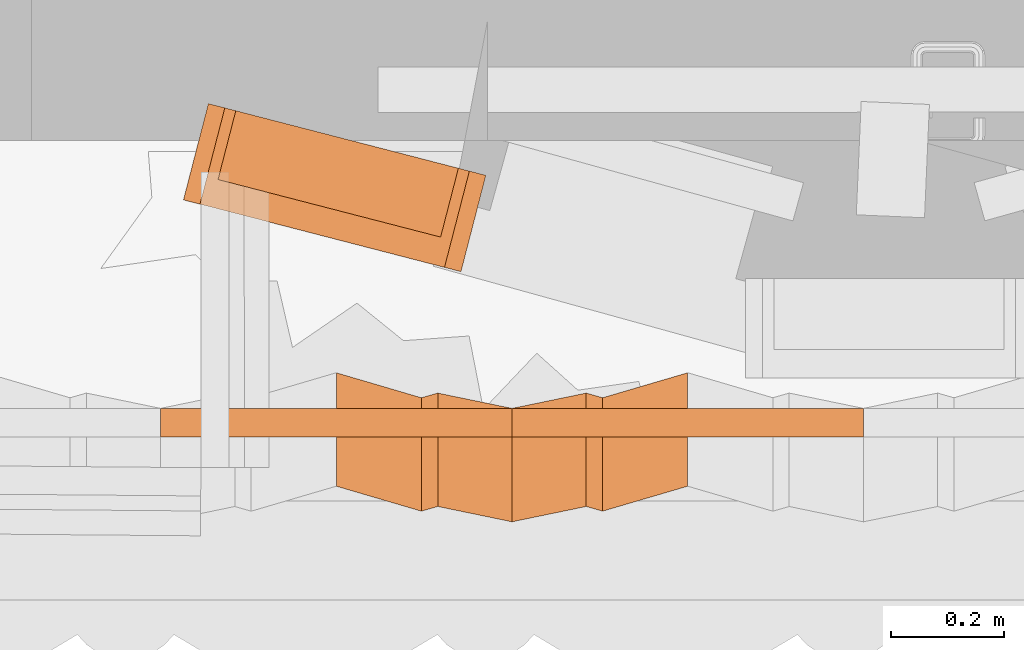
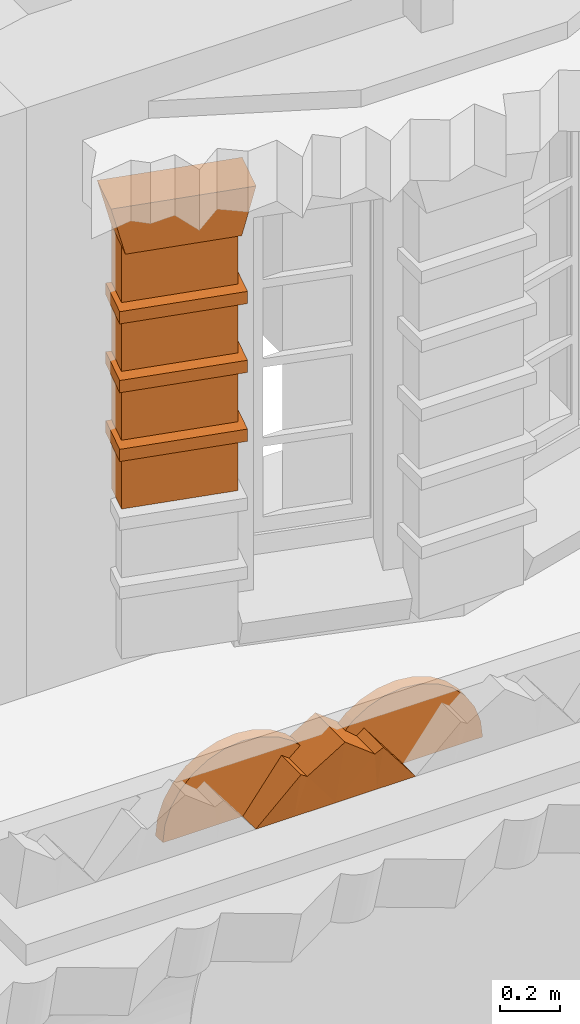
# One storey, part 140 of 158: 11 proxies.
"""IFC2X3 building model written with IfcOpenShell, lengths in metres."""

from ifc_helpers import new_model, entity, si_unit, converted_unit, derived_unit, money_unit, direction, frame, origin_with_axes, place, context, subcontext, project, spatial, faceted_brep, source, transform, mapped, material, type_object, element, save


model = new_model("IFC2X3")

# Units and contexts
model_context = context("Model", 3, precision=1e-05, world=origin_with_axes(), true_north=direction((0.0, 1.0)))
body_context = subcontext(model_context, "Body", "Model", "MODEL_VIEW")
ifc_project = project(units=[si_unit("LENGTHUNIT", "METRE"), si_unit("AREAUNIT", "SQUARE_METRE"), si_unit("VOLUMEUNIT", "CUBIC_METRE"), converted_unit("PLANEANGLEUNIT", "DEGREE", entity("IfcPlaneAngleMeasure", 0.0174532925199), si_unit("PLANEANGLEUNIT", "RADIAN"), dimensions=[0, 0, 0, 0, 0, 0, 0]), money_unit("EUR"), converted_unit("TIMEUNIT", "Year", entity("IfcTimeMeasure", 31556926.0), si_unit("TIMEUNIT", "SECOND"), dimensions=[0, 0, 1, 0, 0, 0, 0]), si_unit("MASSUNIT", "GRAM", prefix="KILO"), si_unit("THERMODYNAMICTEMPERATUREUNIT", "DEGREE_CELSIUS"), si_unit("LUMINOUSINTENSITYUNIT", "LUMEN"), si_unit("ENERGYUNIT", "JOULE", prefix="MEGA"), derived_unit("THERMALCONDUCTANCEUNIT", [(si_unit("POWERUNIT", "WATT"), 1), (si_unit("LENGTHUNIT", "METRE"), -1), (si_unit("THERMODYNAMICTEMPERATUREUNIT", "KELVIN"), -1)]), derived_unit("SPECIFICHEATCAPACITYUNIT", [(si_unit("ENERGYUNIT", "JOULE"), 1), (si_unit("MASSUNIT", "GRAM", prefix="KILO"), -1), (si_unit("THERMODYNAMICTEMPERATUREUNIT", "KELVIN"), -1)]), derived_unit("MASSDENSITYUNIT", [(si_unit("MASSUNIT", "GRAM", prefix="KILO"), 1), (si_unit("VOLUMEUNIT", "CUBIC_METRE"), -1)])], contexts=[model_context])

# Site, building, storey
site_placement = place(None, origin_with_axes())
site = spatial("IfcSite", under=ifc_project, at=site_placement, Name="Gelände", CompositionType="ELEMENT")
building_placement = place(site_placement, origin_with_axes())
building = spatial("IfcBuilding", under=site, at=building_placement, Name="Gebäude", CompositionType="ELEMENT")
storey_placement = place(building_placement, origin_with_axes())
storey = spatial("IfcBuildingStorey", under=building, at=storey_placement, Name="ERDGESCHOSS", CompositionType="ELEMENT", Elevation=0.0)

# Proxies
ifc_material = material(Name="01_ALLGEMEIN - BAUTEIL")
building_element_proxy_type = type_object("IfcBuildingElementProxyType", Name="01_ALLGEMEIN - BAUTEIL", PredefinedType="NOTDEFINED")
shared_shape_1 = source(origin_with_axes(), body_context, "Body", "Brep", [
    faceted_brep([(-0.405369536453, -0.125335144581, 0.0), (-0.405369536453, -0.125335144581, -0.232016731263), (0.0, -0.125335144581, -0.232016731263), (0.0, -0.125335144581, 0.0), (-0.405369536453, 0.0, 0.0), (-0.405369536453, 0.0, -0.232016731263), (0.0, 0.0, -0.232016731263), (0.0, 0.0, 0.0)], [[[0, 1, 2, 3]], [[1, 0, 4, 5]], [[2, 1, 5, 6]], [[3, 2, 6, 7]], [[7, 4, 0, 3]], [[4, 7, 6, 5]]]),
])
proxy_1_placement = place(storey_placement, frame((-8.5617104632, 9.92608158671, 2.11502630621), z_axis=(0.0, 0.0, 1.0), x_axis=(-0.968191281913, 0.250211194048, 0.0)))
element("IfcBuildingElementProxy", 1, at=proxy_1_placement, inside=storey, type_object=building_element_proxy_type, material=ifc_material, Name="Morph-178", context=body_context, shape_type="MappedRepresentation", body=[
    mapped(shared_shape_1, transform((0.0, 0.0, 0.0))),
])
shared_shape_2 = source(origin_with_axes(), body_context, "Body", "Brep", [
    faceted_brep([(0.02, -0.125335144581, -0.05), (-0.425369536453, -0.125335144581, -0.05), (-0.425369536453, 0.05, -0.05), (0.02, 0.05, -0.05), (-0.425369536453, -0.125335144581, 0.0), (0.02, -0.125335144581, 0.0), (-0.425369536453, 0.05, 0.0), (0.02, 0.05, 0.0)], [[[0, 1, 2, 3]], [[4, 1, 0, 5]], [[1, 4, 6, 2]], [[6, 7, 3, 2]], [[5, 0, 3, 7]], [[7, 6, 4, 5]]]),
])
proxy_2_placement = place(storey_placement, frame((-8.5617104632, 9.92608158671, 2.16502630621), z_axis=(0.0, 0.0, 1.0), x_axis=(-0.968191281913, 0.250211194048, 0.0)))
element("IfcBuildingElementProxy", 2, at=proxy_2_placement, inside=storey, type_object=building_element_proxy_type, material=ifc_material, Name="Morph-179", context=body_context, shape_type="MappedRepresentation", body=[
    mapped(shared_shape_2, transform((0.0, 0.0, 0.0))),
])
shared_shape_3 = source(origin_with_axes(), body_context, "Body", "Brep", [
    faceted_brep([(-0.405369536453, -0.125335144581, 0.0), (-0.405369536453, -0.125335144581, -0.232016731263), (0.0, -0.125335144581, -0.232016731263), (0.0, -0.125335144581, 0.0), (-0.405369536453, 0.0, 0.0), (-0.405369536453, 0.0, -0.232016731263), (0.0, 0.0, -0.232016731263), (0.0, 0.0, 0.0)], [[[0, 1, 2, 3]], [[1, 0, 4, 5]], [[2, 1, 5, 6]], [[3, 2, 6, 7]], [[7, 4, 0, 3]], [[4, 7, 6, 5]]]),
])
proxy_3_placement = place(storey_placement, frame((-8.5617104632, 9.92608158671, 2.39704303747), z_axis=(0.0, 0.0, 1.0), x_axis=(-0.968191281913, 0.250211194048, 0.0)))
element("IfcBuildingElementProxy", 3, at=proxy_3_placement, inside=storey, type_object=building_element_proxy_type, material=ifc_material, Name="Morph-180", context=body_context, shape_type="MappedRepresentation", body=[
    mapped(shared_shape_3, transform((0.0, 0.0, 0.0))),
])
shared_shape_4 = source(origin_with_axes(), body_context, "Body", "Brep", [
    faceted_brep([(0.02, -0.125335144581, -0.05), (-0.425369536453, -0.125335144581, -0.05), (-0.425369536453, 0.05, -0.05), (0.02, 0.05, -0.05), (-0.425369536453, -0.125335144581, 0.0), (0.02, -0.125335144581, 0.0), (-0.425369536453, 0.05, 0.0), (0.02, 0.05, 0.0)], [[[0, 1, 2, 3]], [[4, 1, 0, 5]], [[1, 4, 6, 2]], [[6, 7, 3, 2]], [[5, 0, 3, 7]], [[7, 6, 4, 5]]]),
])
proxy_4_placement = place(storey_placement, frame((-8.5617104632, 9.92608158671, 2.44704303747), z_axis=(0.0, 0.0, 1.0), x_axis=(-0.968191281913, 0.250211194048, 0.0)))
element("IfcBuildingElementProxy", 4, at=proxy_4_placement, inside=storey, type_object=building_element_proxy_type, material=ifc_material, Name="Morph-181", context=body_context, shape_type="MappedRepresentation", body=[
    mapped(shared_shape_4, transform((0.0, 0.0, 0.0))),
])
shared_shape_5 = source(origin_with_axes(), body_context, "Body", "Brep", [
    faceted_brep([(-0.405369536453, -0.125335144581, 0.0), (-0.405369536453, -0.125335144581, -0.232016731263), (0.0, -0.125335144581, -0.232016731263), (0.0, -0.125335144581, 0.0), (-0.405369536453, 0.0, 0.0), (-0.405369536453, 0.0, -0.232016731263), (0.0, 0.0, -0.232016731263), (0.0, 0.0, 0.0)], [[[0, 1, 2, 3]], [[1, 0, 4, 5]], [[2, 1, 5, 6]], [[3, 2, 6, 7]], [[7, 4, 0, 3]], [[4, 7, 6, 5]]]),
])
proxy_5_placement = place(storey_placement, frame((-8.5617104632, 9.92608158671, 2.67905976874), z_axis=(0.0, 0.0, 1.0), x_axis=(-0.968191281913, 0.250211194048, 0.0)))
element("IfcBuildingElementProxy", 5, at=proxy_5_placement, inside=storey, type_object=building_element_proxy_type, material=ifc_material, Name="Morph-182", context=body_context, shape_type="MappedRepresentation", body=[
    mapped(shared_shape_5, transform((0.0, 0.0, 0.0))),
])
shared_shape_6 = source(origin_with_axes(), body_context, "Body", "Brep", [
    faceted_brep([(0.02, -0.125335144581, -0.05), (-0.425369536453, -0.125335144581, -0.05), (-0.425369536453, 0.05, -0.05), (0.02, 0.05, -0.05), (-0.425369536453, -0.125335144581, 0.0), (0.02, -0.125335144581, 0.0), (-0.425369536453, 0.05, 0.0), (0.02, 0.05, 0.0)], [[[0, 1, 2, 3]], [[4, 1, 0, 5]], [[1, 4, 6, 2]], [[6, 7, 3, 2]], [[5, 0, 3, 7]], [[7, 6, 4, 5]]]),
])
proxy_6_placement = place(storey_placement, frame((-8.5617104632, 9.92608158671, 2.72905976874), z_axis=(0.0, 0.0, 1.0), x_axis=(-0.968191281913, 0.250211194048, 0.0)))
element("IfcBuildingElementProxy", 6, at=proxy_6_placement, inside=storey, type_object=building_element_proxy_type, material=ifc_material, Name="Morph-183", context=body_context, shape_type="MappedRepresentation", body=[
    mapped(shared_shape_6, transform((0.0, 0.0, 0.0))),
])
shared_shape_7 = source(origin_with_axes(), body_context, "Body", "Brep", [
    faceted_brep([(-0.405369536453, -0.125335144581, 0.0), (-0.405369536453, -0.125335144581, -0.232016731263), (0.0, -0.125335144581, -0.232016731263), (0.0, -0.125335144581, 0.0), (-0.405369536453, 0.0, 0.0), (-0.405369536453, 0.0, -0.232016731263), (0.0, 0.0, -0.232016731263), (0.0, 0.0, 0.0)], [[[0, 1, 2, 3]], [[1, 0, 4, 5]], [[2, 1, 5, 6]], [[3, 2, 6, 7]], [[7, 4, 0, 3]], [[4, 7, 6, 5]]]),
])
proxy_7_placement = place(storey_placement, frame((-8.5617104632, 9.92608158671, 2.9610765), z_axis=(0.0, 0.0, 1.0), x_axis=(-0.968191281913, 0.250211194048, 0.0)))
element("IfcBuildingElementProxy", 7, at=proxy_7_placement, inside=storey, type_object=building_element_proxy_type, material=ifc_material, Name="Morph-184", context=body_context, shape_type="MappedRepresentation", body=[
    mapped(shared_shape_7, transform((0.0, 0.0, 0.0))),
])
shared_shape_8 = source(origin_with_axes(), body_context, "Body", "Brep", [
    faceted_brep([(-0.505369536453, 0.05, 0.0), (-0.505369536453, -0.125335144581, 0.0), (0.0, -0.125335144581, 0.0), (0.0, 0.05, 0.0), (-0.455369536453, -0.125335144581, -0.194111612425), (-0.455369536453, 0.05, -0.194111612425), (-0.05, -0.125335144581, -0.194111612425), (-0.05, 0.05, -0.194111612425)], [[[0, 1, 2, 3]], [[4, 1, 0, 5]], [[1, 4, 6, 2]], [[6, 7, 3, 2]], [[7, 5, 0, 3]], [[5, 7, 6, 4]]]),
])
proxy_8_placement = place(storey_placement, frame((-8.6101200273, 9.93859214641, 3.15518811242), z_axis=(0.0, 0.0, 1.0), x_axis=(-0.968191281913, 0.250211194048, 0.0)))
element("IfcBuildingElementProxy", 8, at=proxy_8_placement, inside=storey, type_object=building_element_proxy_type, material=ifc_material, Name="Morph-185", context=body_context, shape_type="MappedRepresentation", body=[
    mapped(shared_shape_8, transform((0.0, 0.0, 0.0))),
])
shared_shape_9 = source(origin_with_axes(), body_context, "Body", "Brep", [
    faceted_brep([(-0.302076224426, 0.0, 0.0689469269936), (-0.279160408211, 0.0, 0.134436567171), (-0.279160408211, 0.05, 0.134436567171), (-0.302076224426, 0.05, 0.0689469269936), (-0.309844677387, 0.0, 0.0), (0.309844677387, 0.0, 0.0), (0.302076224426, 0.0, 0.0689469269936), (0.279160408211, 0.0, 0.134436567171), (0.242246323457, 0.0, 0.193184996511), (0.193184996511, 0.0, 0.242246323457), (0.134436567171, 0.0, 0.279160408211), (0.0689469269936, 0.0, 0.302076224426), (0.0, 0.0, 0.309844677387), (-0.0689469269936, 0.0, 0.302076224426), (-0.134436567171, 0.0, 0.279160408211), (-0.193184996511, 0.0, 0.242246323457), (-0.242246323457, 0.0, 0.193184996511), (-0.242246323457, 0.05, 0.193184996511), (-0.309844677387, 0.05, 0.0), (-0.193184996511, 0.05, 0.242246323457), (-0.134436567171, 0.05, 0.279160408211), (-0.0689469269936, 0.05, 0.302076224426), (0.0, 0.05, 0.309844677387), (0.0689469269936, 0.05, 0.302076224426), (0.134436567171, 0.05, 0.279160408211), (0.193184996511, 0.05, 0.242246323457), (0.242246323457, 0.05, 0.193184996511), (0.279160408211, 0.05, 0.134436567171), (0.302076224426, 0.05, 0.0689469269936), (0.309844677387, 0.05, 0.0)], [[[0, 1, 2, 3]], [[0, 4, 5, 6, 7, 8, 9, 10, 11, 12, 13, 14, 15, 16, 1]], [[1, 16, 17, 2]], [[18, 3, 2, 17, 19, 20, 21, 22, 23, 24, 25, 26, 27, 28, 29]], [[4, 0, 3, 18]], [[4, 18, 29, 5]], [[6, 5, 29, 28]], [[27, 7, 6, 28]], [[8, 7, 27, 26]], [[9, 8, 26, 25]], [[10, 9, 25, 24]], [[11, 10, 24, 23]], [[12, 11, 23, 22]], [[13, 12, 22, 21]], [[14, 13, 21, 20]], [[15, 14, 20, 19]], [[16, 15, 19, 17]]]),
])
for number, where, z_axis, x_axis, name in (
    (9, (-7.73350002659, 9.47253947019, 0.8259985), (0.0, 0.0, 1.0), (1.0, 0.0, 0.0), "Morph-186"),
    (10, (-8.35318938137, 9.47253947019, 0.8259985), (0.0, 0.0, 1.0), (1.0, 0.0, 0.0), "Morph-186"),
):
    element("IfcBuildingElementProxy", number, at=place(storey_placement, frame(where, z_axis=z_axis, x_axis=x_axis)), inside=storey, type_object=building_element_proxy_type, material=ifc_material, Name=name, context=body_context, shape_type="MappedRepresentation", body=[
        mapped(shared_shape_9, transform((0.0, 0.0, 0.0))),
    ])
shared_shape_10 = source(origin_with_axes(), body_context, "Body", "Brep", [
    faceted_brep([(-0.46956133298, -0.200000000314, 0.0), (-0.46956133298, -0.244082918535, 0.19807), (-0.619689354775, -0.200000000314, 0.0), (-0.440730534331, -0.235806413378, 0.175572), (-0.46956133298, -0.0440829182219, 0.19807), (-0.440730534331, -0.200000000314, 0.0), (-0.619689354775, 0.0, 0.0), (-0.46956133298, -0.0440829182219, 0.0), (-0.440730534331, -0.0358064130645, 0.0), (-0.309844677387, -0.0628254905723, 0.0), (-0.178958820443, -0.0358064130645, 0.0), (-0.150128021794, -0.0440829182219, 0.0), (0.0, 0.0, 0.0), (0.0, -0.200000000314, 0.0), (-0.150128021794, -0.200000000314, 0.0), (-0.178958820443, -0.200000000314, 0.0), (-0.309844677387, -0.200000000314, 0.0), (-0.440730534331, -0.0358064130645, 0.175572), (-0.309844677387, -0.0628254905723, 0.286749), (-0.178958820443, -0.0358064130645, 0.175572), (-0.150128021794, -0.0440829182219, 0.19807), (-0.150128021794, -0.244082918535, 0.19807), (-0.178958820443, -0.235806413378, 0.175572), (-0.309844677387, -0.262825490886, 0.286749)], [[[0, 1, 2]], [[1, 0, 3]], [[2, 1, 4]], [[5, 0, 2, 6, 7, 8, 9, 10, 11, 12, 13, 14, 15, 16]], [[5, 3, 0]], [[1, 3, 4]], [[2, 4, 6]], [[4, 7, 6]], [[7, 4, 17, 8]], [[9, 8, 17, 18]], [[9, 18, 19, 10]], [[10, 19, 20, 11]], [[11, 20, 12]], [[20, 13, 12]], [[21, 14, 13]], [[22, 15, 14]], [[15, 22, 16]], [[3, 5, 16]], [[4, 3, 17]], [[17, 3, 18]], [[22, 19, 18]], [[19, 22, 20]], [[21, 13, 20]], [[14, 21, 22]], [[23, 16, 22]], [[3, 16, 23]], [[3, 23, 18]], [[23, 22, 18]], [[22, 21, 20]]]),
])
proxy_9_placement = place(storey_placement, frame((-7.73350002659, 9.58536496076, 0.8259985), z_axis=(0.0, 0.0, 1.0), x_axis=(1.0, 0.0, 0.0)))
element("IfcBuildingElementProxy", 11, at=proxy_9_placement, inside=storey, type_object=building_element_proxy_type, material=ifc_material, Name="Morph-302", context=body_context, shape_type="MappedRepresentation", body=[
    mapped(shared_shape_10, transform((0.0, 0.0, 0.0))),
])

save(model, "model.ifc")
